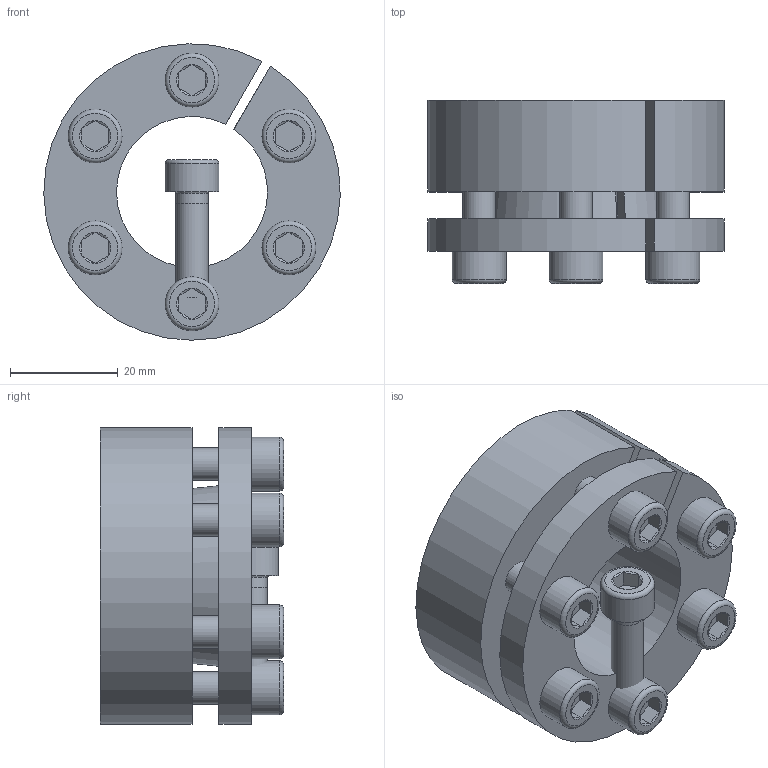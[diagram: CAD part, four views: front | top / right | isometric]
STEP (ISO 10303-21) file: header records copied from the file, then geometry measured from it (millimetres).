
FILE_DESCRIPTION( ( 'Unknown' ), '1' );
FILE_NAME( 'C:/Dokumente und Einstellungen/Sven/Desktop/homepage/cad - homepage/KBS13/KBS 13 - 28 x 55.stp', 'Unknown', ( 'Unknown' ), ( 'Unknown' ), 'XStep 1.0', 'Unknown', ' ' );
FILE_SCHEMA( ( 'automotive_design' ) );
Length unit declared in the file: millimetre
Products named in the file (3): Assem1; KBS 13 - 28 x 55; ISO EN DIN 4762 M6x20
Bounding box: 54.99 x 34 x 54.99 mm (x, y, z)
Volume: 80794.3 mm3; surface area: 37274.5 mm2
Topology: 9 solids, 9 shells, 223 faces, 457 edges, 280 vertices
Faces by surface type: plane 98, cylinder 58, cone 53, torus 14
Full cylindrical faces by diameter (mm): 5 x7, 6 x38, 10 x7
Entity records: 1618 total; most frequent: CARTESIAN_POINT 271, DIRECTION 244, ORIENTED_EDGE 178, AXIS2_PLACEMENT_3D 108, EDGE_LOOP 96, EDGE_CURVE 89, FACE_OUTER_BOUND 67, VERTEX_POINT 67
